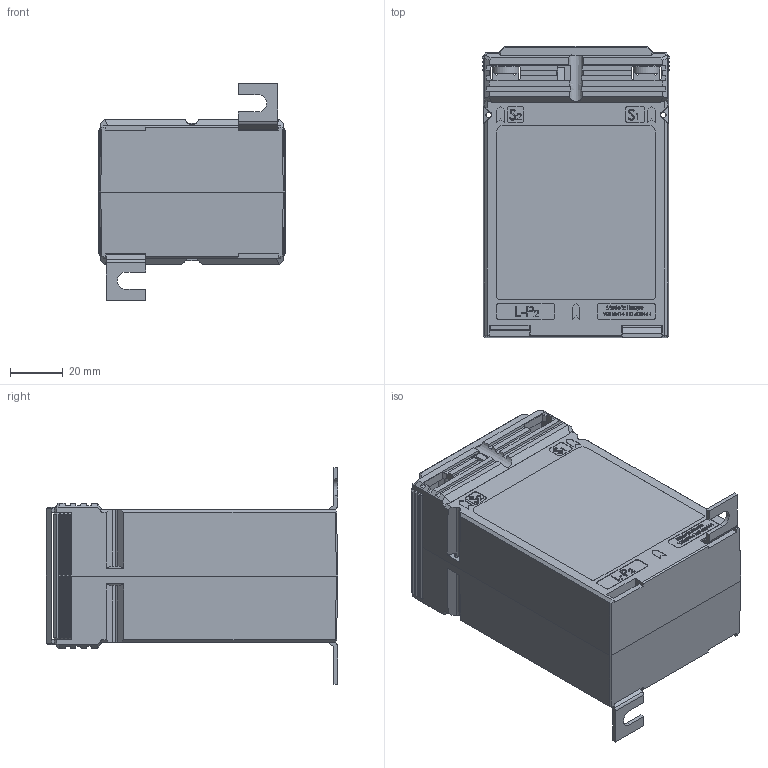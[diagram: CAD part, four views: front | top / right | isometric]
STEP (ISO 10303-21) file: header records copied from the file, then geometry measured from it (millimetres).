
FILE_DESCRIPTION (( 'STEP AP214' ), '1' );
FILE_NAME ('WSK40N_kpl.STEP', '2012-01-16T09:15:06', ( ' ' ), ( '' ), 'SwSTEP 2.0', 'SolidWorks 2010', '' );
FILE_SCHEMA (( 'AUTOMOTIVE_DESIGN' ));
Products named in the file (8): Fusswinkel_1,5; WSK40N; Verschlussklappe_48mm; MBS_WN-003_04_Klemme_WN-003_02; Plombierplatte_E; Linsenschraube DIN 7985 4.8 VZ M 5 x 10; WSK40N_Gehäuseoberteil; WSK40N_kpl
Assembly tree (13 placements, depth 2):
  WSK40N_kpl
    Linsenschraube DIN 7985 4.8 VZ M 5 x 10  x4
    Verschlussklappe_48mm  x2
    Fusswinkel_1,5  x2
    MBS_WN-003_04_Klemme_WN-003_02  x2
    WSK40N_Gehäuseoberteil
    WSK40N
    Plombierplatte_E
Bounding box: 71 x 110.15 x 82 mm (x, y, z)
Volume: 362179.7 mm3; surface area: 69394.4 mm2
Topology: 13 solids, 13 shells, 1709 faces, 4488 edges, 2916 vertices
Faces by surface type: plane 1234, bspline 306, cylinder 100, cone 45, sphere 16, torus 8
Entity records: 62811 total; most frequent: CARTESIAN_POINT 27367, ORIENTED_EDGE 7956, DIRECTION 5866, EDGE_CURVE 3978, LINE 3088, VECTOR 3088, VERTEX_POINT 2618, EDGE_LOOP 1620
